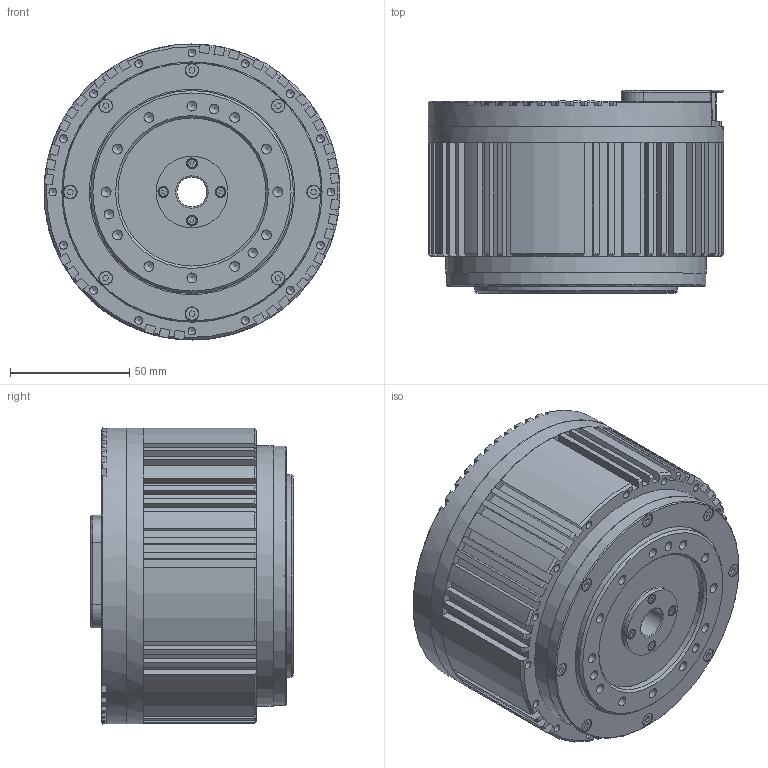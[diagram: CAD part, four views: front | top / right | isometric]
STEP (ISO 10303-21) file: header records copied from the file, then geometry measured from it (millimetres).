
FILE_DESCRIPTION (( 'STEP AP203' ), '1' );
FILE_NAME ('1MT.054.006.STEP', '2026-01-29T03:36:11', ( '' ), ( '' ), 'SwSTEP 2.0', 'SolidWorks 2020', '' );
FILE_SCHEMA (( 'CONFIG_CONTROL_DESIGN' ));
Length unit declared in the file: millimetre
Products named in the file (10): 8MT.013.042-傷裔-C_Default<偌樓馱>; 1MT.054.006; XMT.110.007-输出法兰盖板-B_Default<按加工>; 囀鞠褒麥芛蹟佪M3X10; XMT.108.007-儂釱-C; 囀鞠褒麥芛蹟佪M2X4; XMT.112.006-媼晤粣-B_Default<偌樓馱>; XMT.109.007-怀堤楊擘-C_Default<偌樓馱>; 8MT.013.035-驱动后盖-B_Default<按加工>; 囀鞠褒麥芛蹟佪M3X15
Assembly tree (22 placements, depth 2):
  1MT.054.006
    8MT.013.035-驱动后盖-B_Default<按加工>
    8MT.013.042-傷裔-C_Default<偌樓馱>
    XMT.108.007-儂釱-C
    XMT.109.007-怀堤楊擘-C_Default<偌樓馱>
    XMT.110.007-输出法兰盖板-B_Default<按加工>
    XMT.112.006-媼晤粣-B_Default<偌樓馱>
    囀鞠褒麥芛蹟佪M3X10  x8
    囀鞠褒麥芛蹟佪M3X15  x4
    囀鞠褒麥芛蹟佪M2X4  x4
Bounding box: 123.96 x 85 x 124 mm (x, y, z)
Volume: 256442.3 mm3; surface area: 193648.1 mm2
Topology: 22 solids, 22 shells, 1475 faces, 3959 edges, 2593 vertices
Faces by surface type: plane 754, cylinder 493, cone 204, torus 20, bspline 4
Full cylindrical faces by diameter (mm): 1.6 x12, 1.9 x1, 2 x4, 2.04 x2, 2.05 x8, 2.4 x4, 2.5 x20, 2.7 x8, 3 x12, 3.3 x16, 3.4 x12, 4 x7, 4.2 x18, 4.5 x4, 5.2 x8, 5.8 x8, 12 x3, 12.6 x2, 13.8 x1, 14 x6, 15 x1, 20 x3, 23 x1, 26 x1, 27 x1, 30 x3, 32 x2, 32.5 x1, 38 x1, 40 x1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
Entity records: 48141 total; most frequent: CARTESIAN_POINT 14539, DIRECTION 6657, ORIENTED_EDGE 6430, EDGE_CURVE 3215, AXIS2_PLACEMENT_3D 2435, VERTEX_POINT 2252, VECTOR 1787, LINE 1787
